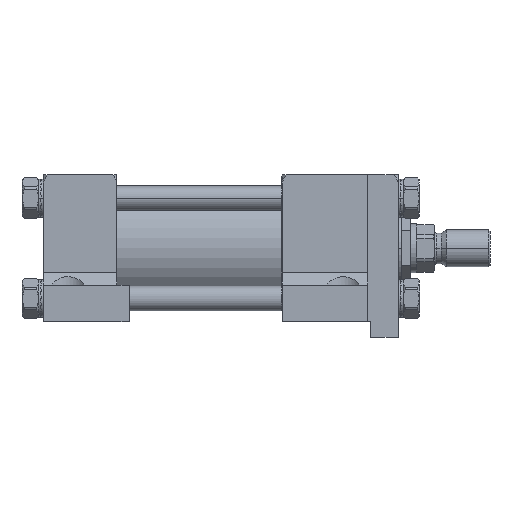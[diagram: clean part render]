
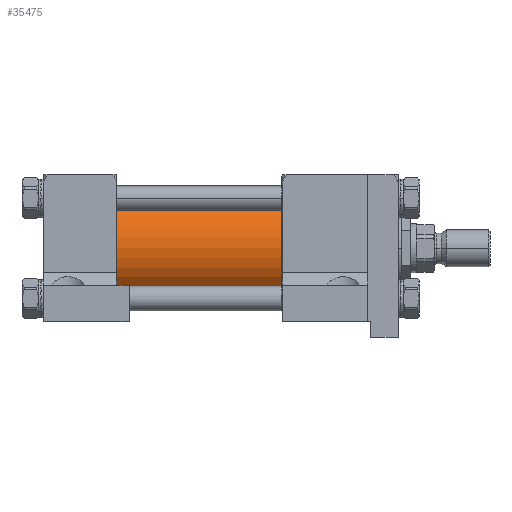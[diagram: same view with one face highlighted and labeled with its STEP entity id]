
A CAD part, front view. The second image highlights one B-rep face of the part: STEP entity #35475.
In plain terms, the highlighted cylindrical face has radius 30.163 mm (diameter 60.325 mm), a partial arc.
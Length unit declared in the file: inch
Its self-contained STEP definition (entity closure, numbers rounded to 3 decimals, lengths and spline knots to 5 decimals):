
#60 = CARTESIAN_POINT ( 'NONE',  ( -6.75, 0., -1.1875 ) ) ;
#2510 = DIRECTION ( 'NONE',  ( 1., 0., 0. ) ) ;
#3533 = DIRECTION ( 'NONE',  ( 1., 0., 0. ) ) ;
#7196 = CIRCLE ( 'NONE', #11095, 1.1875 ) ;
#7882 = DIRECTION ( 'NONE',  ( 0., 1., 0. ) ) ;
#7920 = AXIS2_PLACEMENT_3D ( 'NONE', #22708, #3533, #7882 ) ;
#8255 = CARTESIAN_POINT ( 'NONE',  ( -6.75, 0., 0. ) ) ;
#9005 = EDGE_CURVE ( 'NONE', #9284, #52370, #16621, .T. ) ;
#9284 = VERTEX_POINT ( 'NONE', #60 ) ;
#9501 = DIRECTION ( 'NONE',  ( 1., 0., 0. ) ) ;
#9652 = VERTEX_POINT ( 'NONE', #15452 ) ;
#11095 = AXIS2_PLACEMENT_3D ( 'NONE', #54823, #2510, #44884 ) ;
#12892 = DIRECTION ( 'NONE',  ( 0., 0., -1. ) ) ;
#15452 = CARTESIAN_POINT ( 'NONE',  ( -6.75, 0., 1.1875 ) ) ;
#16155 = AXIS2_PLACEMENT_3D ( 'NONE', #8255, #54700, #12892 ) ;
#16621 = LINE ( 'NONE', #35742, #26500 ) ;
#20959 = FACE_OUTER_BOUND ( 'NONE', #45276, .T. ) ;
#20971 = EDGE_CURVE ( 'NONE', #9652, #9284, #51337, .T. ) ;
#22708 = CARTESIAN_POINT ( 'NONE',  ( -6.75, 0., 0. ) ) ;
#26500 = VECTOR ( 'NONE', #54664, 39.37008 ) ;
#27300 = ORIENTED_EDGE ( 'NONE', *, *, #20971, .T. ) ;
#29137 = CARTESIAN_POINT ( 'NONE',  ( -2.875, 0., -1.1875 ) ) ;
#33208 = ORIENTED_EDGE ( 'NONE', *, *, #9005, .T. ) ;
#34535 = CARTESIAN_POINT ( 'NONE',  ( -2.875, 0., 1.1875 ) ) ;
#35475 = ADVANCED_FACE ( 'NONE', ( #20959 ), #58714, .T. ) ;
#35742 = CARTESIAN_POINT ( 'NONE',  ( -6.75, 0., -1.1875 ) ) ;
#37676 = LINE ( 'NONE', #51900, #55973 ) ;
#37761 = EDGE_CURVE ( 'NONE', #9652, #54430, #37676, .T. ) ;
#40843 = EDGE_CURVE ( 'NONE', #54430, #52370, #7196, .T. ) ;
#44108 = ORIENTED_EDGE ( 'NONE', *, *, #37761, .F. ) ;
#44884 = DIRECTION ( 'NONE',  ( 0., 1., 0. ) ) ;
#45276 = EDGE_LOOP ( 'NONE', ( #44108, #27300, #33208, #60751 ) ) ;
#51337 = CIRCLE ( 'NONE', #7920, 1.1875 ) ;
#51900 = CARTESIAN_POINT ( 'NONE',  ( -6.75, 0., 1.1875 ) ) ;
#52370 = VERTEX_POINT ( 'NONE', #29137 ) ;
#54430 = VERTEX_POINT ( 'NONE', #34535 ) ;
#54664 = DIRECTION ( 'NONE',  ( 1., 0., 0. ) ) ;
#54700 = DIRECTION ( 'NONE',  ( 1., 0., 0. ) ) ;
#54823 = CARTESIAN_POINT ( 'NONE',  ( -2.875, 0., 0. ) ) ;
#55973 = VECTOR ( 'NONE', #9501, 39.37008 ) ;
#58714 = CYLINDRICAL_SURFACE ( 'NONE', #16155, 1.1875 ) ;
#60751 = ORIENTED_EDGE ( 'NONE', *, *, #40843, .F. ) ;
